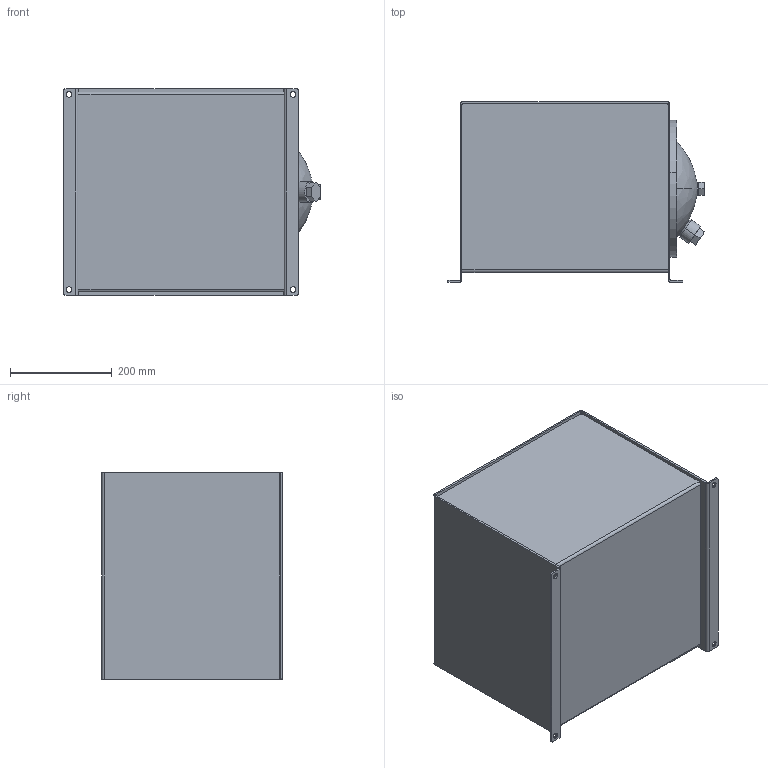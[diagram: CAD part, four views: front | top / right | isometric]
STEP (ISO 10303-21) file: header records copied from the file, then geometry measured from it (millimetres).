
FILE_DESCRIPTION (( 'STEP AP214' ), '1' );
FILE_NAME ('TH-10-FAB.STEP', '2020-10-21T15:55:58', ( '' ), ( '' ), 'SwSTEP 2.0', 'SolidWorks 2013', '' );
FILE_SCHEMA (( 'AUTOMOTIVE_DESIGN' ));
Length unit declared in the file: inch
Products named in the file (12): 10.00 GASKET; 0.625 - 11 BAFFLE NUT; TH-10-TOP; 10.00 END COVER WITH CUT OUT; CRUSH WASHER; TL-ECD-10; 0.625 - 11 HEX BOLT; TH-10-BFL; TH-10-FAB; TH-10-BDY; #12 SAE HALF COUPLING; #12 SAE PLUG
Assembly tree (11 placements, depth 3):
  TH-10-FAB
    TH-10-TOP
    TH-10-BDY
    TH-10-BFL
    TL-ECD-10
      10.00 GASKET
      CRUSH WASHER
      0.625 - 11 HEX BOLT
      0.625 - 11 BAFFLE NUT
      10.00 END COVER WITH CUT OUT
      #12 SAE HALF COUPLING
      #12 SAE PLUG
Bounding box: 506.58 x 355.6 x 406.4 mm (x, y, z)
Volume: 3830898.6 mm3; surface area: 2194964.4 mm2
Topology: 10 solids, 10 shells, 175 faces, 398 edges, 248 vertices
Faces by surface type: plane 97, cylinder 68, cone 6, bspline 4
Entity records: 6141 total; most frequent: CARTESIAN_POINT 1092, DIRECTION 910, ORIENTED_EDGE 796, EDGE_CURVE 398, AXIS2_PLACEMENT_3D 334, VERTEX_POINT 248, LINE 242, VECTOR 242
